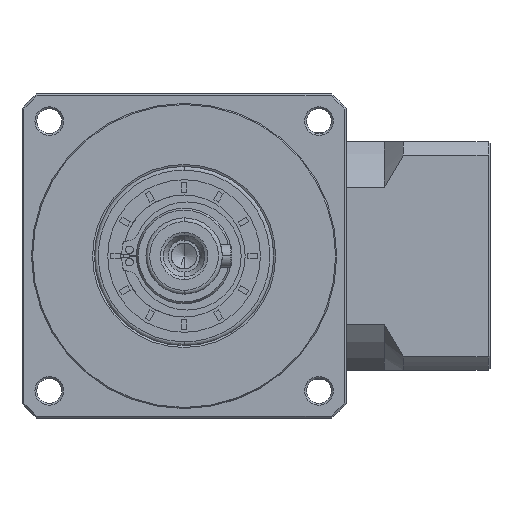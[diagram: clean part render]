
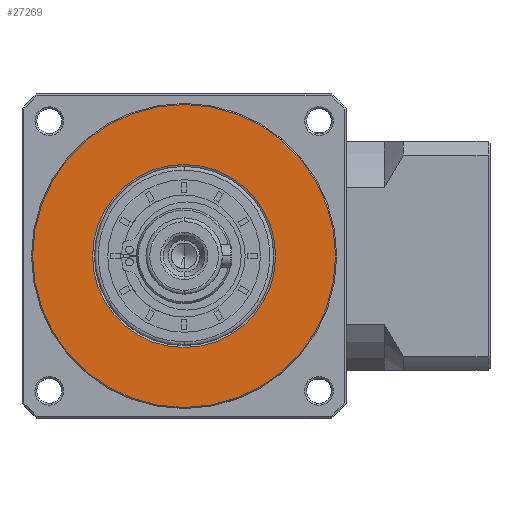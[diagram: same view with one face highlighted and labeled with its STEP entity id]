
A CAD part, left-side view. The second image highlights one B-rep face of the part: STEP entity #27269.
In plain terms, the highlighted planar face has unit normal (-1, 0, 0).
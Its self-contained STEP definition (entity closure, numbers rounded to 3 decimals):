
#958 = EDGE_CURVE ( 'NONE', #121275, #146413, #50522, .T. ) ;
#9048 = CARTESIAN_POINT ( 'NONE',  ( 23.917, -7.293, -40.952 ) ) ;
#14858 = CIRCLE ( 'NONE', #90679, 24. ) ;
#27269 = ADVANCED_FACE ( 'NONE', ( #101741, #106056 ), #65314, .T. ) ;
#28080 = CIRCLE ( 'NONE', #90817, 39.711 ) ;
#29083 = CARTESIAN_POINT ( 'NONE',  ( 23.917, 32.419, -40.952 ) ) ;
#33520 = EDGE_CURVE ( 'NONE', #51408, #46897, #41327, .T. ) ;
#41327 = CIRCLE ( 'NONE', #106113, 39.711 ) ;
#42910 = DIRECTION ( 'NONE',  ( 0., 1., 0. ) ) ;
#44020 = EDGE_CURVE ( 'NONE', #46897, #51408, #28080, .T. ) ;
#46897 = VERTEX_POINT ( 'NONE', #127503 ) ;
#50522 = CIRCLE ( 'NONE', #176082, 24. ) ;
#51408 = VERTEX_POINT ( 'NONE', #9048 ) ;
#55074 = ORIENTED_EDGE ( 'NONE', *, *, #33520, .F. ) ;
#58350 = CARTESIAN_POINT ( 'NONE',  ( 23.917, 32.419, -64.952 ) ) ;
#65314 = PLANE ( 'NONE',  #106950 ) ;
#65491 = DIRECTION ( 'NONE',  ( 1., 0., 0. ) ) ;
#65914 = DIRECTION ( 'NONE',  ( -1., 0., 0. ) ) ;
#79601 = CARTESIAN_POINT ( 'NONE',  ( 23.917, 32.419, -40.952 ) ) ;
#80596 = DIRECTION ( 'NONE',  ( 1., 0., 0. ) ) ;
#86269 = EDGE_LOOP ( 'NONE', ( #158522, #55074 ) ) ;
#90679 = AXIS2_PLACEMENT_3D ( 'NONE', #163210, #80596, #177025 ) ;
#90817 = AXIS2_PLACEMENT_3D ( 'NONE', #29083, #125508, #42910 ) ;
#91663 = ORIENTED_EDGE ( 'NONE', *, *, #958, .T. ) ;
#93526 = DIRECTION ( 'NONE',  ( 0., 0., -1. ) ) ;
#101741 = FACE_OUTER_BOUND ( 'NONE', #86269, .T. ) ;
#102051 = EDGE_LOOP ( 'NONE', ( #91663, #132691 ) ) ;
#106056 = FACE_BOUND ( 'NONE', #102051, .T. ) ;
#106113 = AXIS2_PLACEMENT_3D ( 'NONE', #148157, #65491, #162025 ) ;
#106950 = AXIS2_PLACEMENT_3D ( 'NONE', #148561, #65914, #162455 ) ;
#111536 = CARTESIAN_POINT ( 'NONE',  ( 23.917, 32.419, -16.952 ) ) ;
#121275 = VERTEX_POINT ( 'NONE', #58350 ) ;
#121608 = EDGE_CURVE ( 'NONE', #146413, #121275, #14858, .T. ) ;
#125508 = DIRECTION ( 'NONE',  ( 1., 0., 0. ) ) ;
#127503 = CARTESIAN_POINT ( 'NONE',  ( 23.917, 72.13, -40.952 ) ) ;
#132691 = ORIENTED_EDGE ( 'NONE', *, *, #121608, .T. ) ;
#146413 = VERTEX_POINT ( 'NONE', #111536 ) ;
#148157 = CARTESIAN_POINT ( 'NONE',  ( 23.917, 32.419, -40.952 ) ) ;
#148561 = CARTESIAN_POINT ( 'NONE',  ( 23.917, 32.419, -40.952 ) ) ;
#158522 = ORIENTED_EDGE ( 'NONE', *, *, #44020, .F. ) ;
#162025 = DIRECTION ( 'NONE',  ( 0., 1., 0. ) ) ;
#162455 = DIRECTION ( 'NONE',  ( 0., 0., -1. ) ) ;
#163210 = CARTESIAN_POINT ( 'NONE',  ( 23.917, 32.419, -40.952 ) ) ;
#176076 = DIRECTION ( 'NONE',  ( 1., 0., 0. ) ) ;
#176082 = AXIS2_PLACEMENT_3D ( 'NONE', #79601, #176076, #93526 ) ;
#177025 = DIRECTION ( 'NONE',  ( 0., 0., -1. ) ) ;
